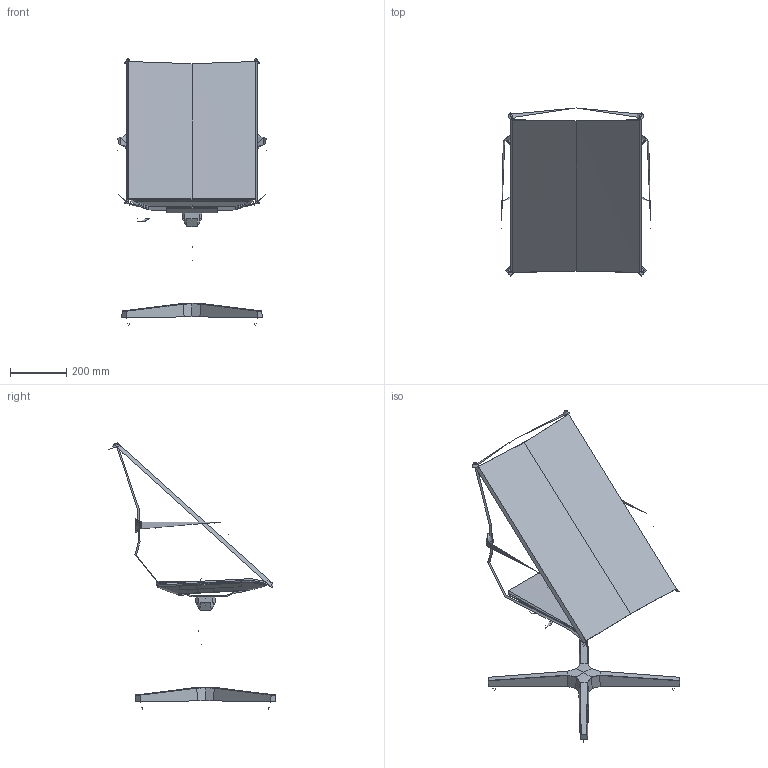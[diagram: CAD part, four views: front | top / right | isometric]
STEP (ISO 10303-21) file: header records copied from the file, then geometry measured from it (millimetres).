
FILE_DESCRIPTION(/* description */ (''),/* implementation_level */ '2;1');
FILE_NAME(/* name */ 'PLCC0B~1',/* time_stamp */ '2018-04-10T15:25:05+02:00',/* author */ (''),/* organization */ (''),/* preprocessor_version */ 'ST-DEVELOPER v16.5',/* originating_system */ '',/* authorisation */ '');
FILE_SCHEMA (('AUTOMOTIVE_DESIGN'));
Length unit declared in the file: millimetre
Products named in the file (1): Document
Bounding box: 531.43 x 595.62 x 945.48 mm (x, y, z)
Volume: 7592445.3 mm3; surface area: 1548138.1 mm2
Topology: 10 solids, 33 shells, 278 faces, 691 edges, 443 vertices
Faces by surface type: bspline 195, plane 83
Entity records: 20988 total; most frequent: CARTESIAN_POINT 16853, ORIENTED_EDGE 1244, EDGE_CURVE 684, VERTEX_POINT 439, B_SPLINE_CURVE_WITH_KNOTS 411, ADVANCED_FACE 278, FACE_OUTER_BOUND 278, EDGE_LOOP 278
